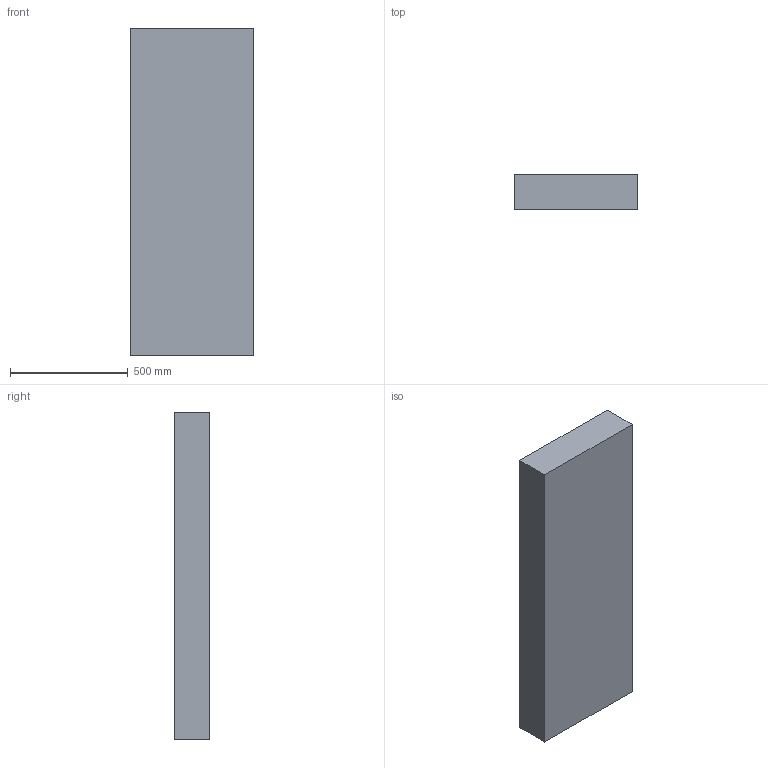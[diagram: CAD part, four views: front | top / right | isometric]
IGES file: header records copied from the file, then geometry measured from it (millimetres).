
Start section:  PTC IGES file: fr_cen_gap_plate.igs
Global section: file name: fr_cen_gap_plate.igs; native system: Pro/ENGINEER by Parametric Technology Corporation; preprocessor: 1999260; author: oshatz; organization: Unknown; date: 000922.101504; units: millimetre
Bounding box: 525 x 150 x 1389 mm (x, y, z)
Surface area: 2032650 mm2 (no closed solid volume)
Topology: 0 solids, 0 shells, 6 faces, 24 edges, 24 vertices
Faces by surface type: bspline 6
